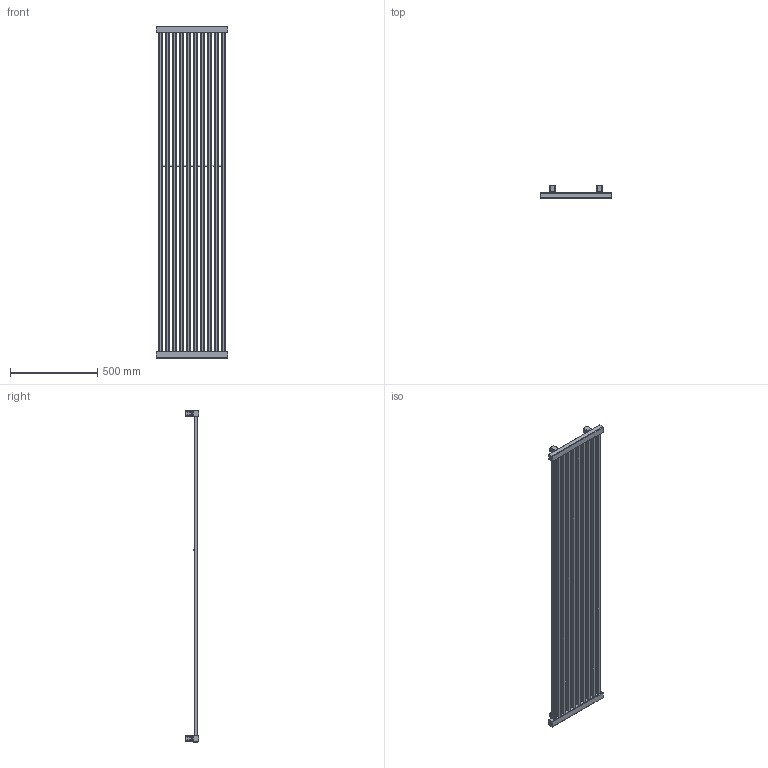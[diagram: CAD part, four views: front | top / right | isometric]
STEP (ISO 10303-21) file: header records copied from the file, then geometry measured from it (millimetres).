
FILE_DESCRIPTION((''),'2;1');
FILE_NAME('Z:\R\G\P\RGPH04 - Grzejnik Intra\Work\Inventor\Marketing\STEP\IN 19-41-ZX.stp','2012-07-25T15:38:44',('PioRo'),(''),'Autodesk Inventor 2012','Autodesk Inventor 2012','');
FILE_SCHEMA(('CONFIG_CONTROL_DESIGN'));
Length unit declared in the file: millimetre
Products named in the file (1): Część4
Bounding box: 410 x 74.5 x 1900 mm (x, y, z)
Volume: 176293.6 mm3; surface area: 1532416.7 mm2
Topology: 8 solids, 9 shells, 341 faces, 839 edges, 520 vertices
Faces by surface type: plane 136, cylinder 135, bspline 48, torus 19, cone 3
Full cylindrical faces by diameter (mm): 5 x1, 10 x3, 18.631 x3
Entity records: 11635 total; most frequent: CARTESIAN_POINT 3284, ORIENTED_EDGE 1654, DIRECTION 1611, EDGE_CURVE 827, AXIS2_PLACEMENT_3D 586, VERTEX_POINT 519, VECTOR 439, LINE 439
